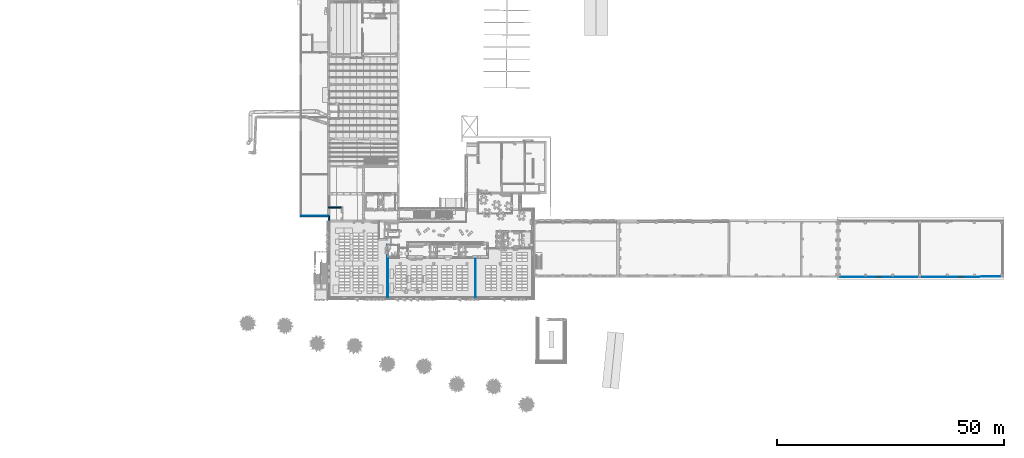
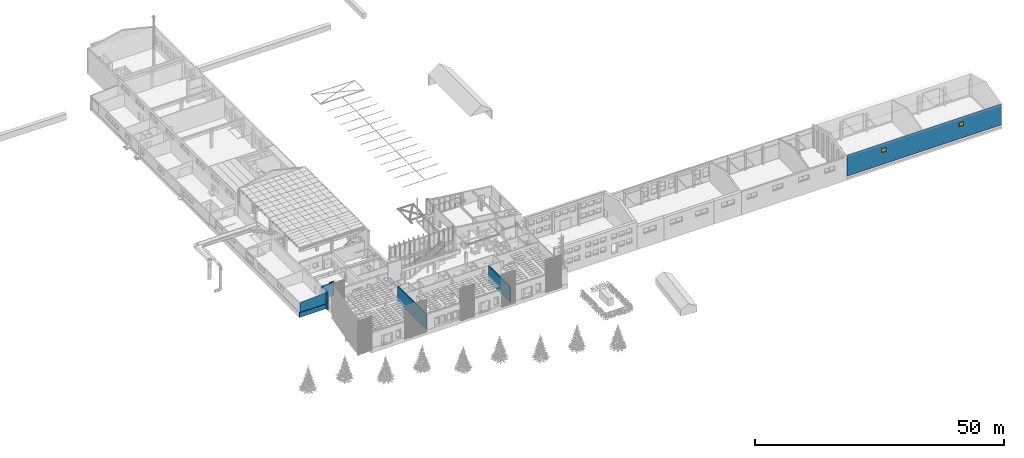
# One storey, part 111 of 301: 7 walls, 2 windows, 2 openings.
"""IFC2X3 building model written with IfcOpenShell, lengths in millimetres."""

from ifc_helpers import new_model, entity, si_unit, converted_unit, derived_unit, money_unit, direction, frame, origin_with_axes, place, context, subcontext, project, spatial, open_shell, faceted_brep, surface_model, source, transform, mapped, material, type_object, element, fill, save


model = new_model("IFC2X3")

# Units and contexts
model_context = context("Model", 3, precision=0.01, world=origin_with_axes(), true_north=direction((0.0, 1.0)))
body_context = subcontext(model_context, "Body", "Model", "MODEL_VIEW")
ifc_project = project(units=[si_unit("LENGTHUNIT", "METRE", prefix="MILLI"), si_unit("AREAUNIT", "SQUARE_METRE"), si_unit("VOLUMEUNIT", "CUBIC_METRE"), converted_unit("PLANEANGLEUNIT", "DEGREE", entity("IfcPlaneAngleMeasure", 0.0174532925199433), si_unit("PLANEANGLEUNIT", "RADIAN"), dimensions=[0, 0, 0, 0, 0, 0, 0]), money_unit("EUR"), converted_unit("TIMEUNIT", "Year", entity("IfcTimeMeasure", 31557600.0), si_unit("TIMEUNIT", "SECOND"), dimensions=[0, 0, 1, 0, 0, 0, 0]), si_unit("MASSUNIT", "GRAM", prefix="KILO"), si_unit("THERMODYNAMICTEMPERATUREUNIT", "DEGREE_CELSIUS"), si_unit("LUMINOUSINTENSITYUNIT", "LUMEN"), si_unit("ENERGYUNIT", "JOULE", prefix="MEGA"), derived_unit("THERMALCONDUCTANCEUNIT", [(si_unit("POWERUNIT", "WATT"), 1), (si_unit("LENGTHUNIT", "METRE"), -1), (si_unit("THERMODYNAMICTEMPERATUREUNIT", "KELVIN"), -1)]), derived_unit("SPECIFICHEATCAPACITYUNIT", [(si_unit("ENERGYUNIT", "JOULE"), 1), (si_unit("MASSUNIT", "GRAM", prefix="KILO"), -1), (si_unit("THERMODYNAMICTEMPERATUREUNIT", "KELVIN"), -1)]), derived_unit("MASSDENSITYUNIT", [(si_unit("MASSUNIT", "GRAM", prefix="KILO"), 1), (si_unit("VOLUMEUNIT", "CUBIC_METRE"), -1)])], contexts=[model_context])

# Site, building, storey
site_placement = place(None, frame((0.0, 0.0, 8650.0), z_axis=(0.0, 0.0, 1.0), x_axis=(1.0, 0.0, 0.0)))
site = spatial("IfcSite", under=ifc_project, at=site_placement, Name="43301:001:0844", CompositionType="ELEMENT")
building_placement = place(site_placement, origin_with_axes())
building = spatial("IfcBuilding", under=site, at=building_placement, Name="Kuressaare Ametikooli tuulikute mehaanikute õppekorpus", CompositionType="ELEMENT")
storey_placement = place(building_placement, origin_with_axes())
storey = spatial("IfcBuildingStorey", under=building, at=storey_placement, Name="1.korrus", CompositionType="ELEMENT", Elevation=0.0)

# Walls
ifc_material_1 = material(Name="Betoonplokk")
wall_type_1 = type_object("IfcWallType", Name="SS-1.1 190", PredefinedType="NOTDEFINED")
wall_1_placement = place(storey_placement, frame((120566.2429752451, 9123.838490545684, 0.0), z_axis=(0.0, 0.0, 1.0), x_axis=(0.0, 1.0, 0.0)))
element("IfcWall", 1, at=wall_1_placement, inside=storey, type_object=wall_type_1, material=ifc_material_1, Name="Sisesein", context=body_context, shape_type="Brep", body=[
    faceted_brep([(8640.99260335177, 189.9999999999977, 0.0), (8640.99260335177, 189.9999999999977, 3690.0), (8640.993025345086, 0.0, 3690.0), (8640.993025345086, 0.0, 0.0), (0.0, 189.9999999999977, 0.0), (0.0, 189.9999999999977, 3690.0), (0.0, 0.0, 3690.0), (0.0, 0.0, 0.0)], [[[0, 1, 2, 3]], [[4, 5, 1, 0]], [[5, 6, 2, 1]], [[3, 2, 6, 7]], [[4, 0, 3, 7]], [[7, 6, 5, 4]]]),
])
wall_2_placement = place(storey_placement, frame((100977.9522847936, 9123.838490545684, 0.0), z_axis=(0.0, 0.0, 1.0), x_axis=(0.0, 1.0, 0.0)))
element("IfcWall", 2, at=wall_2_placement, inside=storey, type_object=wall_type_1, material=ifc_material_1, Name="Sisesein", context=body_context, shape_type="Brep", body=[
    faceted_brep([(11640.9551878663, 0.0, 0.0), (11640.9551878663, 0.0, 3690.0), (11640.9551878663, -189.9999999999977, 3690.0), (11640.9551878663, -189.9999999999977, 0.0), (0.0, 0.0, 0.0), (0.0, 0.0, 3690.0), (0.0, -189.9999999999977, 3690.0), (0.0, -189.9999999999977, 0.0)], [[[0, 1, 2, 3]], [[4, 5, 1, 0]], [[5, 6, 2, 1]], [[3, 2, 6, 7]], [[4, 0, 3, 7]], [[7, 6, 5, 4]]]),
])
ifc_material_2 = material(Name="GENEERILINE - KONSTRUKTRIOON")
wall_type_2 = type_object("IfcWallType", Name="GENEERILINE - KONSTRUKTRIOON 100", PredefinedType="NOTDEFINED")
wall_3_placement = place(storey_placement, frame((87958.75644683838, 26998.90708923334, 130.0), z_axis=(0.0, 0.0, 1.0), x_axis=(-1.0, 0.0, 0.0)))
element("IfcWall", 3, at=wall_3_placement, inside=storey, type_object=wall_type_2, material=ifc_material_2, Name="VS-XX", context=body_context, shape_type="Brep", body=[
    faceted_brep([(5966.917657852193, -99.99999999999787, 2320.441239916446), (0.0, -99.99999999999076, 2643.594367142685), (0.0, -99.99999999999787, 0.0), (5966.917657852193, -99.99999999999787, 0.0), (0.0, 0.0, 2643.568868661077), (5966.917657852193, 0.0, 2320.415741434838), (0.0, 0.0, 0.0), (5966.917657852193, 0.0, 0.0)], [[[0, 1, 2, 3]], [[4, 1, 0, 5]], [[1, 4, 6, 2]], [[7, 3, 2, 6]], [[5, 0, 3, 7]], [[4, 5, 7, 6]]]),
])
wall_type_3 = type_object("IfcWallType", Name="GENEERILINE - KONSTRUKTRIOON 300", PredefinedType="NOTDEFINED")
wall_4_placement = place(storey_placement, frame((91159.67655181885, 29110.91041564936, 0.0), z_axis=(0.0, 0.0, 1.0), x_axis=(-1.0, 0.0, 0.0)))
element("IfcWall", 4, at=wall_4_placement, inside=storey, type_object=wall_type_3, material=ifc_material_2, context=body_context, shape_type="Brep", body=[
    faceted_brep([(1218.494027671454, 0.0, 3386.695020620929), (1207.747575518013, 0.0, 3399.287598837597), (1193.342737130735, 0.0, 3407.446023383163), (1178.127865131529, 0.0, 3410.0), (299.9999999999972, 0.0, 3410.0), (299.9999999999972, 0.0, 0.0), (3200.920104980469, 0.0, 0.0), (3200.920104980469, 0.0, 3000.0), (2900.920104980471, 0.0, 3000.0), (2900.920104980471, 0.0, 3145.0), (1266.133742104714, 0.0, 3144.999865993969), (1224.286308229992, 0.0, 3371.18667622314), (1207.747575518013, 300.0000000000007, 3399.287598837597), (1218.494027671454, 300.0000000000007, 3386.695020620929), (1193.342737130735, 300.0000000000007, 3407.446023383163), (1178.127865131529, 300.0000000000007, 3410.0), (299.9999999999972, 300.0000000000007, 3410.0), (299.9999999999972, 300.0000000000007, 0.0), (3200.920104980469, 300.0000000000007, 0.0), (3200.920104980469, 300.0000000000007, 3000.0), (2900.920104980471, 300.0000000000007, 3000.0), (2900.920104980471, 300.0000000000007, 3145.0), (1266.133742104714, 300.0000000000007, 3144.999865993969), (1224.286308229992, 300.0000000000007, 3371.18667622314)], [[[0, 1, 2, 3, 4, 5, 6, 7, 8, 9, 10, 11]], [[12, 1, 0, 13]], [[14, 2, 1, 12]], [[14, 15, 3, 2]], [[4, 3, 15, 16]], [[17, 5, 4, 16]], [[17, 18, 6, 5]], [[7, 6, 18, 19]], [[7, 19, 20, 8]], [[8, 20, 21, 9]], [[21, 22, 10, 9]], [[23, 11, 10, 22]], [[13, 0, 11, 23]], [[23, 22, 21, 20, 19, 18, 17, 16, 15, 14, 12, 13]]]),
])
wall_5_placement = place(storey_placement, frame((87958.75644683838, 27098.90708923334, -1000.0), z_axis=(0.0, 0.0, 1.0), x_axis=(0.0, -1.0, 0.0)))
element("IfcWall", 5, at=wall_5_placement, inside=storey, type_object=wall_type_3, material=ifc_material_2, Name="VS-XX", context=body_context, shape_type="Brep", body=[
    faceted_brep([(915.8381652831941, 299.9999999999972, 0.0), (915.8381652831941, 0.0, 0.0), (0.0, 0.0, 0.0), (0.0, 299.9999999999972, 0.0), (915.8381652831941, 299.9999999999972, 4000.0), (915.8381652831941, 0.0, 4000.0), (0.0, 0.0, 4000.0), (0.0, 299.9999999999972, 4000.0)], [[[0, 1, 2, 3]], [[1, 0, 4, 5]], [[1, 5, 6, 2]], [[7, 3, 2, 6]], [[4, 0, 3, 7]], [[5, 4, 7, 6]]]),
])

# Wall, openings, windows
wall_type_4 = type_object("IfcWallType", Name="GENEERILINE - KONSTRUKTRIOON 110", PredefinedType="NOTDEFINED")
wall_6_placement = place(storey_placement, frame((236876.0833740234, 13624.14218585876, -30.0), z_axis=(0.0, 0.0, 1.0), x_axis=(-0.9999977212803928, -0.002134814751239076, 0.0)))
wall_6 = element("IfcWall", 6, at=wall_6_placement, inside=storey, type_object=wall_type_4, material=ifc_material_2, Name="VS-XX", context=body_context, shape_type="Brep", body=[
    faceted_brep([(35922.3663474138, -110.0000000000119, 5079.573385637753), (-0.2348301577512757, -109.9999999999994, 5100.190948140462), (-0.2348301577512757, -110.0000000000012, 0.0), (35922.3663474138, -110.0000000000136, 0.0), (27882.39483124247, -110.0000000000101, 2953.257350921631), (26832.39483124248, -110.0000000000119, 2953.257350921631), (26832.39483124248, -110.0000000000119, 3873.257350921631), (27882.39483124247, -110.0000000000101, 3873.257350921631), (9866.200298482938, -110.0000000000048, 3873.257350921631), (9866.200298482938, -110.0000000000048, 2953.257350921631), (8816.200298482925, -110.0000000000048, 2953.257350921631), (8816.200298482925, -110.0000000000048, 3873.257350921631), (0.0, 0.0, 5070.617427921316), (35922.3663474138, 0.0, 5050.000000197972), (0.0, 0.0, 0.0), (35922.3663474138, 0.0, 0.0), (27882.39483124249, 0.0, 2953.257350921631), (26832.39483124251, 0.0, 2953.257350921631), (26832.39483124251, 0.0, 3873.257350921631), (27882.39483124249, 0.0, 3873.257350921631), (9866.200298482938, 0.0, 3873.257350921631), (9866.200298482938, 0.0, 2953.257350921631), (8816.200298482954, 0.0, 2953.257350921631), (8816.200298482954, 0.0, 3873.257350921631)], [[[0, 1, 2, 3], [4, 5, 6, 7], [8, 9, 10, 11]], [[12, 1, 0, 13]], [[1, 12, 14, 2]], [[15, 3, 2, 14]], [[13, 0, 3, 15]], [[16, 17, 5, 4]], [[17, 18, 6, 5]], [[18, 19, 7, 6]], [[19, 16, 4, 7]], [[8, 20, 21, 9]], [[9, 21, 22, 10]], [[10, 22, 23, 11]], [[11, 23, 20, 8]], [[12, 13, 15, 14], [16, 19, 18, 17], [22, 21, 20, 23]]]),
])
opening_1_placement = place(wall_6_placement, frame((9341.20029848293, 0.0, 2953.257350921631), z_axis=(0.0, 0.0, 1.0), x_axis=(1.0, 0.0, 0.0)))
opening_1 = element("IfcOpeningElement", 7, at=opening_1_placement, cuts=wall_6, Name="VA-XX", context=body_context, shape_type="Brep", body=[
    faceted_brep([(-525.0000000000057, -187.6874228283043, 919.9999999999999), (-525.0000000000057, -187.6874228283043, 0.0), (525.0000000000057, -187.6874228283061, 0.0), (525.0000000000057, -187.6874228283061, 919.9999999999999), (-524.9999999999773, 77.68742282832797, 919.9999999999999), (-524.9999999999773, 77.68742282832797, 0.0), (525.0000000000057, 77.68742282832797, 0.0), (525.0000000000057, 77.68742282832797, 919.9999999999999)], [[[0, 1, 2, 3]], [[4, 5, 1, 0]], [[5, 6, 2, 1]], [[6, 7, 3, 2]], [[7, 4, 0, 3]], [[6, 5, 4, 7]]]),
])
opening_2_placement = place(wall_6_placement, frame((27357.39483124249, 0.0, 2953.257350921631), z_axis=(0.0, 0.0, 1.0), x_axis=(1.0, 0.0, 0.0)))
opening_2 = element("IfcOpeningElement", 8, at=opening_2_placement, cuts=wall_6, Name="VA-XX", context=body_context, shape_type="Brep", body=[
    faceted_brep([(-525.0000000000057, -187.6874228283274, 919.9999999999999), (-525.0000000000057, -187.6874228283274, 0.0), (524.9999999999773, -187.6874228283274, 0.0), (524.9999999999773, -187.6874228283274, 919.9999999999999), (-525.0000000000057, 77.6874228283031, 919.9999999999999), (-525.0000000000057, 77.6874228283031, 0.0), (525.0000000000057, 77.6874228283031, 0.0), (525.0000000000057, 77.6874228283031, 919.9999999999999)], [[[0, 1, 2, 3]], [[4, 5, 1, 0]], [[5, 6, 2, 1]], [[6, 7, 3, 2]], [[7, 4, 0, 3]], [[6, 5, 4, 7]]]),
])
window_style = type_object("IfcWindowStyle", Name="Window 27", ConstructionType="NOTDEFINED", OperationType="SINGLE_PANEL", ParameterTakesPrecedence=False, Sizeable=False)
shared_shape = source(origin_with_axes(), body_context, "Body", "SurfaceModel", [
    faceted_brep([(499.9999999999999, 0.0, 880.0), (499.9999999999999, -45.0000000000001, 880.0), (484.9999999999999, -45.0000000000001, 880.0), (484.9999999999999, -65.0000000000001, 880.0), (524.9999999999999, -65.0000000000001, 880.0), (524.9999999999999, 0.0, 880.0), (499.9999999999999, 0.0, 39.99999999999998), (499.9999999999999, -44.99999999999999, 39.99999999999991), (484.9999999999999, -44.99999999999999, 39.99999999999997), (484.9999999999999, -64.99999999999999, 39.99999999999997), (524.9999999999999, -64.99999999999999, 39.99999999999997), (524.9999999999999, 0.0, 39.99999999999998)], [[[0, 1, 2, 3, 4, 5]], [[1, 0, 6, 7]], [[8, 2, 1, 7]], [[2, 8, 9, 3]], [[4, 3, 9, 10]], [[5, 4, 10, 11]], [[6, 0, 5, 11]], [[7, 6, 11, 10, 9, 8]]]),
    faceted_brep([(-484.9999999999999, -45.0000000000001, 880.0), (-499.9999999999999, -45.0000000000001, 880.0), (-499.9999999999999, 0.0, 880.0), (-524.9999999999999, 0.0, 880.0), (-524.9999999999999, -65.0000000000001, 880.0), (-484.9999999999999, -65.0000000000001, 880.0), (-484.9999999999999, -44.99999999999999, 39.99999999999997), (-499.9999999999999, -44.99999999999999, 39.99999999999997), (-499.9999999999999, 0.0, 39.99999999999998), (-524.9999999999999, 0.0, 39.99999999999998), (-524.9999999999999, -64.99999999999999, 39.99999999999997), (-484.9999999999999, -64.99999999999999, 39.99999999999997)], [[[0, 1, 2, 3, 4, 5]], [[1, 0, 6, 7]], [[8, 2, 1, 7]], [[2, 8, 9, 3]], [[9, 10, 4, 3]], [[10, 11, 5, 4]], [[6, 0, 5, 11]], [[7, 6, 11, 10, 9, 8]]]),
    faceted_brep([(-484.9999999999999, -44.99999999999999, 39.99999999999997), (-499.9999999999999, -44.99999999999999, 39.99999999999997), (-499.9999999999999, 0.0, 39.99999999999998), (-524.9999999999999, 0.0, 39.99999999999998), (-524.9999999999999, -64.99999999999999, 39.99999999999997), (-484.9999999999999, -64.99999999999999, 39.99999999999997), (484.9999999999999, -44.99999999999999, 39.99999999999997), (499.9999999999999, -44.99999999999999, 39.99999999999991), (499.9999999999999, -44.99999999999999, 25.00000000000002), (-499.9999999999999, -44.99999999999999, 25.00000000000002), (-499.9999999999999, 0.0, 25.00000000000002), (499.9999999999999, 0.0, 25.00000000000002), (499.9999999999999, 0.0, 39.99999999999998), (524.9999999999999, 0.0, 39.99999999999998), (524.9999999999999, 0.0, 0.0), (-524.9999999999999, 0.0, 0.0), (-524.9999999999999, -64.99999999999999, 0.0), (524.9999999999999, -64.99999999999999, 39.99999999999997), (484.9999999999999, -64.99999999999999, 39.99999999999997), (524.9999999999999, -64.99999999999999, 0.0)], [[[0, 1, 2, 3, 4, 5]], [[1, 0, 6, 7, 8, 9]], [[10, 2, 1, 9]], [[11, 12, 13, 14, 15, 3, 2, 10]], [[15, 16, 4, 3]], [[17, 18, 5, 4, 16, 19]], [[6, 0, 5, 18]], [[7, 6, 18, 17, 13, 12]], [[7, 12, 11, 8]], [[11, 10, 9, 8]], [[13, 17, 19, 14]], [[14, 19, 16, 15]]]),
    faceted_brep([(499.9999999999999, 0.0, 880.0), (499.9999999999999, 0.0, 895.0), (-499.9999999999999, 0.0, 895.0), (-499.9999999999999, 0.0, 880.0), (-524.9999999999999, 0.0, 880.0), (-524.9999999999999, 0.0, 920.0), (524.9999999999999, 0.0, 920.0), (524.9999999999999, 0.0, 880.0), (499.9999999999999, -45.0000000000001, 880.0), (499.9999999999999, -45.0000000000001, 895.0), (-499.9999999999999, -45.0000000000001, 895.0), (-499.9999999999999, -45.0000000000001, 880.0), (-484.9999999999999, -45.0000000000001, 880.0), (-484.9999999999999, -65.0000000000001, 880.0), (-524.9999999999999, -65.0000000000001, 880.0), (-524.9999999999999, -65.0000000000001, 920.0), (524.9999999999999, -65.0000000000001, 920.0), (524.9999999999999, -65.0000000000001, 880.0), (484.9999999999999, -65.0000000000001, 880.0), (484.9999999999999, -45.0000000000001, 880.0)], [[[0, 1, 2, 3, 4, 5, 6, 7]], [[1, 0, 8, 9]], [[2, 1, 9, 10]], [[3, 2, 10, 11]], [[11, 12, 13, 14, 4, 3]], [[4, 14, 15, 5]], [[5, 15, 16, 6]], [[6, 16, 17, 7]], [[8, 0, 7, 17, 18, 19]], [[12, 11, 10, 9, 8, 19]], [[12, 19, 18, 13]], [[14, 13, 18, 17, 16, 15]]]),
    faceted_brep([(490.9999999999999, 0.0, 487.0000000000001), (490.9999999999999, 11.99999999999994, 487.0000000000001), (489.6602540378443, 11.99999999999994, 492.0), (489.6602540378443, 0.0, 492.0), (490.9999999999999, 0.0, 433.0), (490.9999999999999, 11.99999999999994, 433.0), (489.6602540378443, 11.99999999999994, 428.0000000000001), (485.9999999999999, 11.99999999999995, 424.3397459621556), (480.9999999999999, 11.99999999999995, 423.0000000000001), (468.9999999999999, 11.99999999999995, 423.0000000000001), (463.9999999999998, 11.99999999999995, 424.3397459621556), (460.3397459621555, 11.99999999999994, 428.0000000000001), (458.9999999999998, 11.99999999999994, 433.0), (458.9999999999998, 11.99999999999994, 487.0000000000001), (460.3397459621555, 11.99999999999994, 492.0), (463.9999999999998, 11.99999999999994, 495.6602540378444), (468.9999999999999, 11.99999999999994, 497.0), (480.9999999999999, 11.99999999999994, 497.0), (485.9999999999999, 11.99999999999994, 495.6602540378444), (485.9999999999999, 0.0, 495.6602540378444), (480.9999999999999, 0.0, 497.0), (468.9999999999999, 0.0, 497.0), (463.9999999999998, 0.0, 495.6602540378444), (460.3397459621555, 0.0, 492.0), (458.9999999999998, 0.0, 487.0000000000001), (458.9999999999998, 0.0, 433.0), (460.3397459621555, 0.0, 428.0000000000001), (463.9999999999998, 0.0, 424.3397459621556), (468.9999999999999, 0.0, 423.0000000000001), (480.9999999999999, 0.0, 423.0000000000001), (485.9999999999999, 0.0, 424.3397459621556), (489.6602540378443, 0.0, 428.0000000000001)], [[[0, 1, 2, 3]], [[4, 5, 1, 0]], [[1, 5, 6, 7, 8, 9, 10, 11, 12, 13, 14, 15, 16, 17, 18, 2]], [[3, 2, 18, 19]], [[0, 3, 19, 20, 21, 22, 23, 24, 25, 26, 27, 28, 29, 30, 31, 4]], [[31, 6, 5, 4]], [[30, 7, 6, 31]], [[29, 8, 7, 30]], [[28, 9, 8, 29]], [[27, 10, 9, 28]], [[26, 11, 10, 27]], [[25, 12, 11, 26]], [[24, 13, 12, 25]], [[23, 14, 13, 24]], [[22, 15, 14, 23]], [[21, 16, 15, 22]], [[20, 17, 16, 21]], [[19, 18, 17, 20]]]),
    faceted_brep([(474.9999999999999, 11.99999999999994, 473.5000000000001), (474.9999999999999, 35.99999999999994, 473.5000000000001), (468.2499999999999, 35.99999999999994, 471.69134295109), (468.2499999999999, 11.99999999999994, 471.69134295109), (481.7499999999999, 11.99999999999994, 471.69134295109), (481.7499999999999, 35.99999999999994, 471.69134295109), (486.6913429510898, 35.99999999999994, 466.75), (488.4999999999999, 35.99999999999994, 460.0), (486.6913429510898, 35.99999999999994, 453.25), (481.7499999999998, 35.99999999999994, 448.3086570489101), (474.9999999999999, 35.99999999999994, 446.5), (468.2499999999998, 35.99999999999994, 448.3086570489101), (463.3086570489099, 35.99999999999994, 453.2500000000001), (461.4999999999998, 35.99999999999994, 460.0), (463.3086570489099, 35.99999999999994, 466.75), (463.3086570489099, 11.99999999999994, 466.75), (461.4999999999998, 11.99999999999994, 460.0), (463.3086570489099, 11.99999999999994, 453.2500000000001), (468.2499999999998, 11.99999999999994, 448.3086570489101), (474.9999999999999, 11.99999999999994, 446.5), (481.7499999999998, 11.99999999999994, 448.3086570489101), (486.6913429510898, 11.99999999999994, 453.25), (488.4999999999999, 11.99999999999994, 460.0), (486.6913429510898, 11.99999999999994, 466.75)], [[[0, 1, 2, 3]], [[4, 5, 1, 0]], [[1, 5, 6, 7, 8, 9, 10, 11, 12, 13, 14, 2]], [[3, 2, 14, 15]], [[0, 3, 15, 16, 17, 18, 19, 20, 21, 22, 23, 4]], [[23, 6, 5, 4]], [[22, 7, 6, 23]], [[21, 8, 7, 22]], [[20, 9, 8, 21]], [[19, 10, 9, 20]], [[18, 11, 10, 19]], [[17, 12, 11, 18]], [[16, 13, 12, 17]], [[15, 14, 13, 16]]]),
    faceted_brep([(486.4999999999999, 35.99999999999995, 353.0000000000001), (488.4999999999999, 35.99999999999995, 356.0000000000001), (488.4999999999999, 35.99999999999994, 460.0), (486.6913429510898, 35.99999999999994, 466.75), (481.7499999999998, 35.99999999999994, 471.69134295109), (474.9999999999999, 35.99999999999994, 473.5000000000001), (468.2499999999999, 35.99999999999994, 471.69134295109), (463.3086570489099, 35.99999999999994, 466.7500000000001), (461.4999999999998, 35.99999999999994, 460.0), (461.4999999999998, 35.99999999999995, 356.0000000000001), (463.4999999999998, 35.99999999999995, 353.0000000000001), (474.9999999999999, 35.99999999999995, 350.0000000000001), (486.5000000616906, 43.99999999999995, 353.000000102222), (488.5000003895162, 43.99999999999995, 355.9999996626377), (488.5000003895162, 43.99999999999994, 459.9999999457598), (486.6913430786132, 43.99999999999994, 466.7499996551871), (481.7499997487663, 43.99999999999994, 471.691342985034), (475.0000000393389, 43.99999999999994, 473.5000002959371), (468.2500003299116, 43.99999999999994, 471.691342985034), (463.3086570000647, 43.99999999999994, 466.7499996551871), (461.4999996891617, 43.99999999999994, 459.9999999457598), (461.4999996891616, 43.99999999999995, 355.9999996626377), (463.5000000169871, 43.99999999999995, 353.000000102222), (475.0000000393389, 43.99999999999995, 349.9999996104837), (484.637462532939, 46.99999956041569, 355.6145196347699), (485.5000008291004, 46.99999956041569, 356.9083266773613), (485.5000008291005, 46.99999956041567, 459.6050424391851), (484.0016171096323, 46.99999956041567, 465.1970855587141), (480.1970856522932, 46.99999956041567, 469.0016170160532), (475.0000000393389, 46.99999956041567, 470.3941721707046), (469.8029144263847, 46.99999956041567, 469.0016170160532), (465.9983829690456, 46.99999956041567, 465.1970855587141), (464.4999992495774, 46.99999956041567, 459.6050424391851), (464.4999992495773, 46.99999956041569, 356.9083266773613), (465.3625375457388, 46.99999956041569, 355.6145196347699), (475.0000000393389, 46.99999956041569, 353.1003985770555)], [[[0, 1, 2, 3, 4, 5, 6, 7, 8, 9, 10, 11]], [[0, 12, 13, 1]], [[1, 13, 14, 2]], [[2, 14, 15, 3]], [[3, 15, 16, 4]], [[4, 16, 17, 5]], [[5, 17, 18, 6]], [[6, 18, 19, 7]], [[7, 19, 20, 8]], [[8, 20, 21, 9]], [[9, 21, 22, 10]], [[10, 22, 23, 11]], [[11, 23, 12, 0]], [[12, 24, 25, 13]], [[13, 25, 26, 14]], [[14, 26, 27, 15]], [[15, 27, 28, 16]], [[16, 28, 29, 17]], [[17, 29, 30, 18]], [[18, 30, 31, 19]], [[19, 31, 32, 20]], [[20, 32, 33, 21]], [[21, 33, 34, 22]], [[22, 34, 35, 23]], [[23, 35, 24, 12]], [[34, 33, 32, 31, 30, 29, 28, 27, 26, 25, 24, 35]]]),
    faceted_brep([(449.9999999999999, -45.00000000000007, 845.0), (499.9999999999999, -45.00000000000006, 845.0), (499.9999999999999, 0.0, 845.0), (449.9999999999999, 0.0, 845.0), (449.9999999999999, -44.99999999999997, 75.0), (499.9999999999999, -44.99999999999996, 75.0), (499.9999999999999, 0.0, 75.00000000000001), (449.9999999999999, 0.0, 75.00000000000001)], [[[0, 1, 2, 3]], [[0, 4, 5, 1]], [[1, 5, 6, 2]], [[3, 2, 6, 7]], [[4, 0, 3, 7]], [[5, 4, 7, 6]]]),
    faceted_brep([(-449.9999999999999, -45.00000000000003, 75.0), (-499.9999999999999, -45.00000000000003, 75.0), (-499.9999999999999, 0.0, 75.00000000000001), (-449.9999999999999, 0.0, 75.00000000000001), (-449.9999999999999, -45.00000000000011, 845.0), (-499.9999999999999, -45.00000000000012, 845.0), (-499.9999999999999, 0.0, 845.0), (-449.9999999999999, 0.0, 845.0)], [[[0, 1, 2, 3]], [[0, 4, 5, 1]], [[1, 5, 6, 2]], [[3, 2, 6, 7]], [[4, 0, 3, 7]], [[5, 4, 7, 6]]]),
    faceted_brep([(-499.9999999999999, -45.00000000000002, 25.0), (-499.9999999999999, -45.00000000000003, 75.0), (-499.9999999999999, 0.0, 75.00000000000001), (-499.9999999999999, 0.0, 25.0), (499.9999999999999, -44.99999999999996, 25.0), (499.9999999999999, -44.99999999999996, 75.0), (449.9999999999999, -44.99999999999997, 75.0), (-449.9999999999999, -45.00000000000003, 75.0), (-449.9999999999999, 0.0, 75.00000000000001), (449.9999999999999, 0.0, 75.00000000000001), (499.9999999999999, 0.0, 75.00000000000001), (499.9999999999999, 0.0, 25.0)], [[[0, 1, 2, 3]], [[0, 4, 5, 6, 7, 1]], [[1, 7, 8, 2]], [[3, 2, 8, 9, 10, 11]], [[4, 0, 3, 11]], [[5, 4, 11, 10]], [[6, 5, 10, 9]], [[7, 6, 9, 8]]]),
    faceted_brep([(499.9999999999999, -45.00000000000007, 895.0), (499.9999999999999, -45.00000000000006, 845.0), (499.9999999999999, 0.0, 845.0), (499.9999999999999, 0.0, 895.0), (-499.9999999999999, -45.00000000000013, 895.0), (-499.9999999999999, -45.00000000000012, 845.0), (-449.9999999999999, -45.00000000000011, 845.0), (449.9999999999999, -45.00000000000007, 845.0), (449.9999999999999, 0.0, 845.0), (-449.9999999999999, 0.0, 845.0), (-499.9999999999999, 0.0, 845.0), (-499.9999999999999, 0.0, 895.0)], [[[0, 1, 2, 3]], [[0, 4, 5, 6, 7, 1]], [[1, 7, 8, 2]], [[3, 2, 8, 9, 10, 11]], [[4, 0, 3, 11]], [[5, 4, 11, 10]], [[6, 5, 10, 9]], [[7, 6, 9, 8]]]),
    surface_model("IfcShellBasedSurfaceModel", [(449.9999999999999, -32.5, 75.0), (449.9999999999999, -32.50000000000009, 845.0), (-449.9999999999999, -32.50000000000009, 845.0), (-449.9999999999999, -32.5, 75.0)], [open_shell([[[0, 1, 2, 3]]])]),
    surface_model("IfcShellBasedSurfaceModel", [(449.9999999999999, -12.5, 75.0), (-449.9999999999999, -12.5, 75.0), (-449.9999999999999, -12.5000000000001, 845.0), (449.9999999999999, -12.5000000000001, 845.0)], [open_shell([[[0, 1, 2, 3]]])]),
])
window_1_placement = place(opening_2_placement, frame((525.0000000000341, 0.0, 0.0), z_axis=(0.0, 0.0, 1.0), x_axis=(-1.0, 0.0, 0.0)))
window_1 = element("IfcWindow", 9, at=window_1_placement, inside=storey, type_object=window_style, Name="VA-XX", OverallHeight=920.0, OverallWidth=1050.0, context=body_context, shape_type="MappedRepresentation", body=[
    mapped(shared_shape, transform((525.0000000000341, 65.00000000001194, 0.0))),
])
fill(opening_2, window_1)
window_2_placement = place(opening_1_placement, frame((525.0000000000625, 0.0, 0.0), z_axis=(0.0, 0.0, 1.0), x_axis=(-1.0, 0.0, 0.0)))
window_2 = element("IfcWindow", 10, at=window_2_placement, inside=storey, type_object=window_style, Name="VA-XX", OverallHeight=920.0, OverallWidth=1050.0, context=body_context, shape_type="MappedRepresentation", body=[
    mapped(shared_shape, transform((525.0000000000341, 65.00000000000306, 0.0))),
])
fill(opening_1, window_2)

# Wall
wall_type_5 = type_object("IfcWallType", Name="GENEERILINE - KONSTRUKTRIOON 230", PredefinedType="NOTDEFINED")
wall_7_placement = place(storey_placement, frame((87958.75644683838, 26868.90708923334, -1000.0), z_axis=(0.0, 0.0, 1.0), x_axis=(-1.0, 0.0, 0.0)))
element("IfcWall", 11, at=wall_7_placement, inside=storey, type_object=wall_type_5, material=ifc_material_2, Name="VS-XX", context=body_context, shape_type="Brep", body=[
    faceted_brep([(0.0, -230.0000000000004, 0.0), (6196.867819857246, -229.9999999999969, 0.0), (6196.867819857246, -229.9999999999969, 1130.0), (0.0, -230.0000000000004, 1130.0), (0.0, 0.0, 0.0), (6196.867819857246, 0.0, 0.0), (6196.867819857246, 0.0, 1130.0), (0.0, 0.0, 1130.0)], [[[0, 1, 2, 3]], [[4, 5, 1, 0]], [[5, 6, 2, 1]], [[3, 2, 6, 7]], [[0, 3, 7, 4]], [[7, 6, 5, 4]]]),
])

save(model, "model.ifc")
